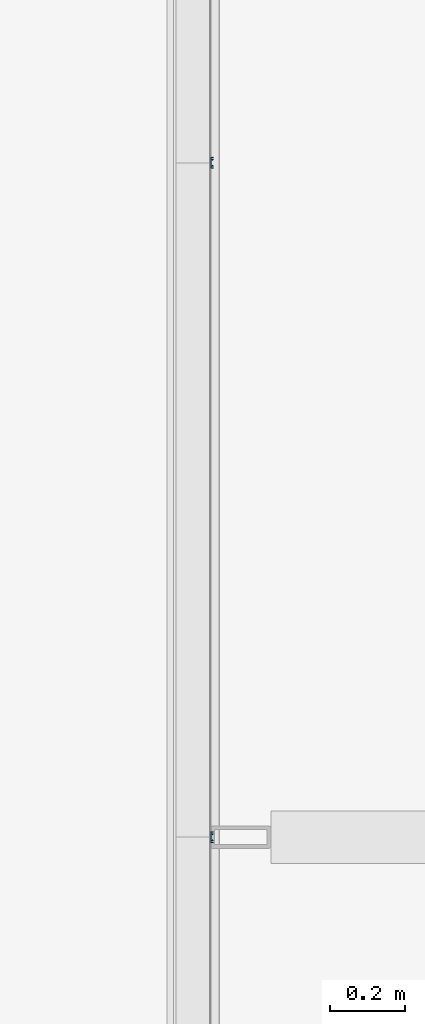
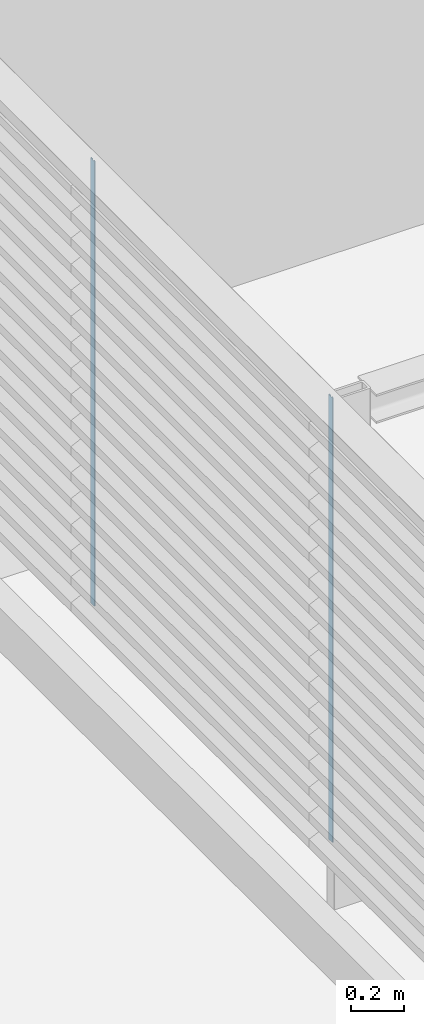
# One storey, part 9 of 32: 2 members, 1 element without a shape of its own.
"""IFC2X3 building model written with IfcOpenShell, lengths in millimetres."""

from ifc_helpers import new_model, entity, si_unit, converted_unit, derived_unit, direction, frame, frame_2d, origin, place, context, subcontext, project, spatial, polyline, circle_curve, parameter, trimmed, segment, composite_curve, outline, extrude, source, transform, mapped, material, type_object, type_shapes, element, aggregate, save


model = new_model("IFC2X3")

# Units and contexts
model_context = context("Model", 3, precision=0.01, world=origin(), true_north=direction((6.123031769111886e-17, 1.0)))
body_context = subcontext(model_context, "Body", "Model", "MODEL_VIEW")
ifc_project = project(units=[si_unit("LENGTHUNIT", "METRE", prefix="MILLI"), si_unit("AREAUNIT", "SQUARE_METRE"), si_unit("VOLUMEUNIT", "CUBIC_METRE"), converted_unit("PLANEANGLEUNIT", "DEGREE", entity("IfcRatioMeasure", 0.017453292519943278), si_unit("PLANEANGLEUNIT", "RADIAN"), dimensions=[0, 0, 0, 0, 0, 0, 0]), si_unit("MASSUNIT", "GRAM", prefix="KILO"), derived_unit("MASSDENSITYUNIT", [(si_unit("MASSUNIT", "GRAM", prefix="KILO"), 1), (si_unit("LENGTHUNIT", "METRE"), -3)]), derived_unit("IONCONCENTRATIONUNIT", [(si_unit("MASSUNIT", "GRAM", prefix="KILO"), 1), (si_unit("LENGTHUNIT", "METRE"), -3)]), derived_unit("MOMENTOFINERTIAUNIT", [(si_unit("LENGTHUNIT", "METRE"), 4)]), si_unit("TIMEUNIT", "SECOND"), si_unit("FREQUENCYUNIT", "HERTZ"), si_unit("THERMODYNAMICTEMPERATUREUNIT", "DEGREE_CELSIUS"), derived_unit("THERMALTRANSMITTANCEUNIT", [(si_unit("MASSUNIT", "GRAM", prefix="KILO"), 1), (si_unit("THERMODYNAMICTEMPERATUREUNIT", "KELVIN"), -1), (si_unit("TIMEUNIT", "SECOND"), -3)]), derived_unit("THERMALCONDUCTANCEUNIT", [(si_unit("MASSUNIT", "GRAM", prefix="KILO"), 1), (si_unit("THERMODYNAMICTEMPERATUREUNIT", "KELVIN"), -1), (si_unit("TIMEUNIT", "SECOND"), -3), (si_unit("LENGTHUNIT", "METRE"), 1)]), derived_unit("VOLUMETRICFLOWRATEUNIT", [(si_unit("LENGTHUNIT", "METRE"), 3), (si_unit("TIMEUNIT", "SECOND"), -1)]), derived_unit("MASSFLOWRATEUNIT", [(si_unit("MASSUNIT", "GRAM", prefix="KILO"), 1), (si_unit("TIMEUNIT", "SECOND"), -1)]), derived_unit("ROTATIONALFREQUENCYUNIT", [(si_unit("TIMEUNIT", "SECOND"), -1)]), si_unit("ELECTRICCURRENTUNIT", "AMPERE"), si_unit("ELECTRICVOLTAGEUNIT", "VOLT"), si_unit("POWERUNIT", "WATT"), si_unit("FORCEUNIT", "NEWTON", prefix="KILO"), si_unit("ILLUMINANCEUNIT", "LUX"), si_unit("LUMINOUSFLUXUNIT", "LUMEN"), si_unit("LUMINOUSINTENSITYUNIT", "CANDELA"), derived_unit("USERDEFINED", [(si_unit("MASSUNIT", "GRAM", prefix="KILO"), -1), (si_unit("LENGTHUNIT", "METRE"), -2), (si_unit("TIMEUNIT", "SECOND"), 3), (si_unit("LUMINOUSFLUXUNIT", "LUMEN"), 1)]), derived_unit("USERDEFINED", [(si_unit("MASSUNIT", "GRAM", prefix="KILO"), 1), (si_unit("TIMEUNIT", "SECOND"), -3), (si_unit("LENGTHUNIT", "METRE"), 3), (si_unit("ELECTRICCURRENTUNIT", "AMPERE"), -2)]), derived_unit("SOUNDPOWERUNIT", [(si_unit("MASSUNIT", "GRAM", prefix="KILO"), 1), (si_unit("TIMEUNIT", "SECOND"), -3), (si_unit("LENGTHUNIT", "METRE"), 2)]), derived_unit("SOUNDPRESSUREUNIT", [(si_unit("MASSUNIT", "GRAM", prefix="KILO"), 1), (si_unit("LENGTHUNIT", "METRE"), -1), (si_unit("TIMEUNIT", "SECOND"), -2)]), derived_unit("LINEARVELOCITYUNIT", [(si_unit("LENGTHUNIT", "METRE"), 1), (si_unit("TIMEUNIT", "SECOND"), -1)]), si_unit("PRESSUREUNIT", "PASCAL"), derived_unit("USERDEFINED", [(si_unit("MASSUNIT", "GRAM", prefix="KILO"), 1), (si_unit("LENGTHUNIT", "METRE"), -2), (si_unit("TIMEUNIT", "SECOND"), -2)]), derived_unit("LINEARFORCEUNIT", [(si_unit("MASSUNIT", "GRAM", prefix="KILO"), 1), (si_unit("TIMEUNIT", "SECOND"), -2)]), derived_unit("PLANARFORCEUNIT", [(si_unit("MASSUNIT", "GRAM", prefix="KILO"), 1), (si_unit("LENGTHUNIT", "METRE"), -1), (si_unit("TIMEUNIT", "SECOND"), -2)]), derived_unit("SPECIFICHEATCAPACITYUNIT", [(si_unit("THERMODYNAMICTEMPERATUREUNIT", "KELVIN"), -1), (si_unit("LENGTHUNIT", "METRE"), 2), (si_unit("TIMEUNIT", "SECOND"), -2)]), derived_unit("HEATINGVALUEUNIT", [(si_unit("LENGTHUNIT", "METRE"), 2), (si_unit("TIMEUNIT", "SECOND"), -2)]), derived_unit("VAPORPERMEABILITYUNIT", [(si_unit("LENGTHUNIT", "METRE"), -1), (si_unit("TIMEUNIT", "SECOND"), 1)]), derived_unit("DYNAMICVISCOSITYUNIT", [(si_unit("MASSUNIT", "GRAM", prefix="KILO"), 1), (si_unit("TIMEUNIT", "SECOND"), -1), (si_unit("LENGTHUNIT", "METRE"), -1)]), derived_unit("THERMALEXPANSIONCOEFFICIENTUNIT", [(si_unit("THERMODYNAMICTEMPERATUREUNIT", "KELVIN"), -1)]), derived_unit("MODULUSOFELASTICITYUNIT", [(si_unit("MASSUNIT", "GRAM", prefix="KILO"), 1), (si_unit("LENGTHUNIT", "METRE"), -1), (si_unit("TIMEUNIT", "SECOND"), -2)]), derived_unit("ISOTHERMALMOISTURECAPACITYUNIT", [(si_unit("LENGTHUNIT", "METRE"), 3), (si_unit("MASSUNIT", "GRAM", prefix="KILO"), -1)]), derived_unit("MOISTUREDIFFUSIVITYUNIT", [(si_unit("TIMEUNIT", "SECOND"), -1), (si_unit("LENGTHUNIT", "METRE"), 2)])], contexts=[model_context])

# Site, building, storey
site_placement = place(None, frame((0.0, 300.0, 0.0)))
site = spatial("IfcSite", under=ifc_project, at=site_placement, Name="<Kadastrale nummers>", CompositionType="ELEMENT")
building_placement = place(site_placement, origin())
building = spatial("IfcBuilding", under=site, at=building_placement, CompositionType="ELEMENT")
storey_placement = place(building_placement, frame((0.0, 0.0, 7150.000035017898)))
storey = spatial("IfcBuildingStorey", under=building, at=storey_placement, Name="02 tweede verdieping", CompositionType="ELEMENT", Elevation=7150.000035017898)

# Curtain wall, members
curtain_wall_type = type_object("IfcCurtainWallType", Name="Curtain Wall:NLRS_21_CWA_lamellenwand Linius - L.120 met LD.0065_Storax", PredefinedType="NOTDEFINED")
curtain_wall_placement = place(storey_placement, frame((0.0, 0.0, -7150.000035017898)))
curtain_wall = element("IfcCurtainWall", 1, at=curtain_wall_placement, inside=storey, type_object=curtain_wall_type, Name="Curtain Wall:NLRS_21_CWA_lamellenwand Linius - L.120 met LD.0065_Storax", ObjectType="Curtain Wall:NLRS_21_CWA_lamellenwand Linius - L.120 met LD.0065_Storax")
ifc_material = material(Name="STAAL_RAL 7006")
member_type = type_object("IfcMemberType", Name="Rectangular Mullion:NLRS_21_CWM_drager LD.0065_Storax", PredefinedType="MULLION", material=ifc_material)
shared_shape = source(origin(), body_context, "Body", "SweptSolid", [
    extrude(outline(composite_curve([segment(polyline([(-3.69683409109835, -14.99897597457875), (1.4234637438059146, -14.99897597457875)]), True, "CONTINUOUS"), segment(trimmed(circle_curve(frame_2d((1.4234637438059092, -13.998975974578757), x_axis=(0.0, -1.0)), 1.0000000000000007), [parameter(0.0)], [parameter(241.3401018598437)], True, "PARAMETER"), True, "CONTINUOUS"), segment(polyline([(0.5459816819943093, -13.519366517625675), (-2.196834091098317, -13.519366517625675)]), True, "CONTINUOUS"), segment(polyline([(-2.196834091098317, -13.519366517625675), (-2.196834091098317, -9.646548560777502)]), True, "CONTINUOUS"), segment(polyline([(-2.196834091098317, -9.646548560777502), (2.80316590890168, -9.646548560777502)]), True, "CONTINUOUS"), segment(polyline([(2.80316590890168, -9.646548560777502), (2.80316590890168, -7.885916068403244)]), True, "CONTINUOUS"), segment(polyline([(2.80316590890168, -7.885916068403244), (1.6031201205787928, -7.885916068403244)]), True, "CONTINUOUS"), segment(polyline([(1.6031201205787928, -7.885916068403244), (1.6031201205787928, -6.358836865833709)]), True, "CONTINUOUS"), segment(polyline([(1.6031201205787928, -6.358836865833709), (-0.24734056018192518, -6.358836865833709)]), True, "CONTINUOUS"), segment(polyline([(-0.24734056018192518, -6.358836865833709), (-0.24734056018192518, -7.885916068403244)]), True, "CONTINUOUS"), segment(polyline([(-0.24734056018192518, -7.885916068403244), (-2.1968340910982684, -7.885916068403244)]), True, "CONTINUOUS"), segment(polyline([(-2.1968340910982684, -7.885916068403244), (-2.1968340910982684, 7.887964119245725)]), True, "CONTINUOUS"), segment(polyline([(-2.1968340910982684, 7.887964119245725), (-0.24734056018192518, 7.887964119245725)]), True, "CONTINUOUS"), segment(polyline([(-0.24734056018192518, 7.887964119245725), (-0.24734056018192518, 6.3485966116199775)]), True, "CONTINUOUS"), segment(polyline([(-0.24734056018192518, 6.3485966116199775), (1.6031201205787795, 6.3485966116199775)]), True, "CONTINUOUS"), segment(polyline([(1.6031201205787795, 6.3485966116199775), (1.6031201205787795, 7.887964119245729)]), True, "CONTINUOUS"), segment(polyline([(1.6031201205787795, 7.887964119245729), (2.8031659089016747, 7.887964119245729)]), True, "CONTINUOUS"), segment(polyline([(2.8031659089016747, 7.887964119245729), (2.8031659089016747, 9.64859661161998)]), True, "CONTINUOUS"), segment(polyline([(2.8031659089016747, 9.64859661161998), (-2.196834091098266, 9.64859661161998)]), True, "CONTINUOUS"), segment(polyline([(-2.196834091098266, 9.64859661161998), (-2.196834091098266, 13.52141456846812)]), True, "CONTINUOUS"), segment(polyline([(-2.196834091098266, 13.52141456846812), (0.545981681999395, 13.52141456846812)]), True, "CONTINUOUS"), segment(trimmed(circle_curve(frame_2d((1.4234637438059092, 14.00102402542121), x_axis=(-0.8774820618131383, -0.47960945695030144)), 0.9999999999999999), [parameter(0.0)], [parameter(241.34010185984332)], True, "PARAMETER"), True, "CONTINUOUS"), segment(polyline([(1.423463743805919, 15.001024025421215), (-3.69683409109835, 15.001024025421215)]), True, "CONTINUOUS"), segment(polyline([(-3.69683409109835, 15.001024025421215), (-3.69683409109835, -14.99897597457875)]), True, "CONTINUOUS")], self_intersect=False)), frame((-0.0010240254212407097, -4.696834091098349, -2049.999964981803), z_axis=(0.0, 0.0, 1.0), x_axis=(0.0, -1.0, 0.0)), (0.0, 0.0, 1.0), 2049.999964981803),
])
type_shapes(member_type, [shared_shape])
member_1_placement = place(curtain_wall_placement, frame((38414.0, 35400.0, 7650.000035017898), z_axis=(0.0, 0.0, -1.0), x_axis=(0.0, -1.0, 0.0)))
member_1 = element("IfcMember", 2, at=member_1_placement, type_object=member_type, material=ifc_material, Name="Rectangular Mullion:NLRS_21_CWM_drager LD.0065_Storax", ObjectType="Rectangular Mullion:NLRS_21_CWM_drager LD.0065_Storax", context=body_context, shape_type="MappedRepresentation", body=[
    mapped(shared_shape, transform((0.0, 0.0, 0.0), scale=1.0)),
])
member_2_placement = place(curtain_wall_placement, frame((38414.0, 37197.49999984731, 7650.000035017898), z_axis=(0.0, 0.0, -1.0), x_axis=(0.0, -1.0, 0.0)))
member_2 = element("IfcMember", 3, at=member_2_placement, type_object=member_type, material=ifc_material, Name="Rectangular Mullion:NLRS_21_CWM_drager LD.0065_Storax", ObjectType="Rectangular Mullion:NLRS_21_CWM_drager LD.0065_Storax", context=body_context, shape_type="MappedRepresentation", body=[
    mapped(shared_shape, transform((0.0, 0.0, 0.0), scale=1.0)),
])
aggregate(curtain_wall, [member_1, member_2])

save(model, "model.ifc")
